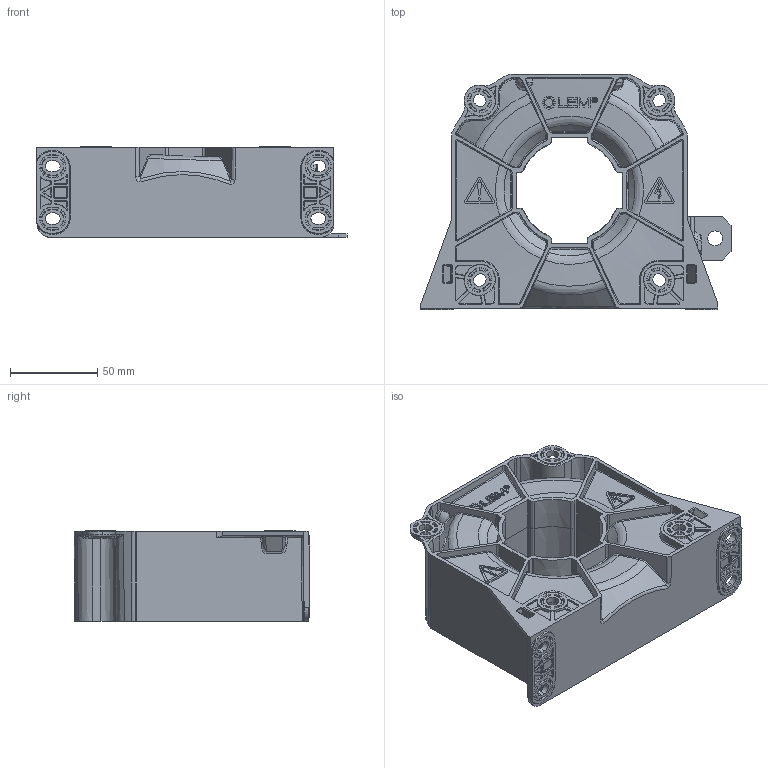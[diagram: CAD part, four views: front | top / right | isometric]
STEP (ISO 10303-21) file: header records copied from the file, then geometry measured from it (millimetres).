
FILE_DESCRIPTION(('Creo Elements/Direct Modeling STEP Export'),'2;1');
FILE_NAME('FKHFL.stp','2015-07-06T12:40:01',(''),(''),'PTC Creo Elements/Direct Modeling STEP processor for AP214 (Solid Model)','PTC Creo Elements/Direct Modeling 19.0B 21-Mar-2015 (C) Parametric Technology GmbH','');
FILE_SCHEMA(('AUTOMOTIVE_DESIGN { 1 0 10303 214 1 1 1 1 }'));
Products named in the file (1): LF_2010_OUTLINE_B
Bounding box: 177.5 x 135 x 52 mm (x, y, z)
Volume: 621975.6 mm3; surface area: 91984.7 mm2
Topology: 1 solids, 1 shells, 2962 faces, 7336 edges, 4455 vertices
Faces by surface type: bspline 1365, plane 748, cylinder 409, cone 210, torus 164, extrusion 34, sphere 32
Entity records: 239454 total; most frequent: CARTESIAN_POINT 183183, ORIENTED_EDGE 14600, EDGE_CURVE 7300, DIRECTION 6628, VERTEX_POINT 4455, EDGE_LOOP 3101, FACE_OUTER_BOUND 2962, ADVANCED_FACE 2962
